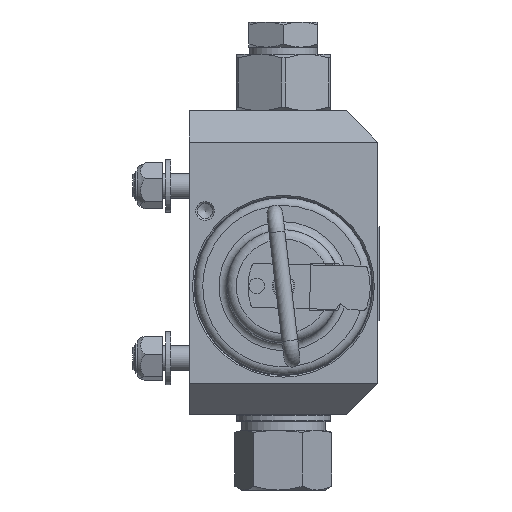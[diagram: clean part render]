
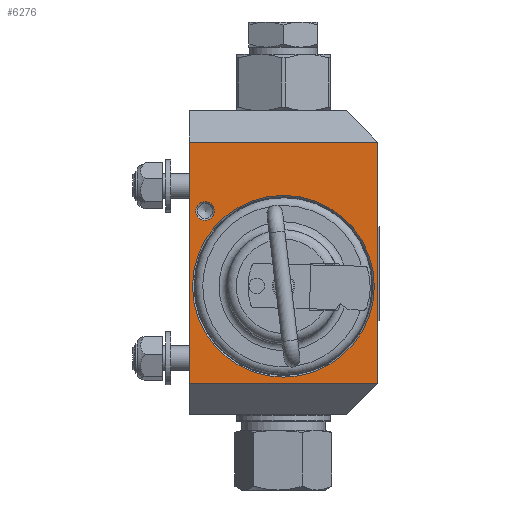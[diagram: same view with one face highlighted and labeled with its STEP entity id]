
A CAD part, left-side view. The second image highlights one B-rep face of the part: STEP entity #6276.
In plain terms, the highlighted planar face has unit normal (-1, 0, 0).
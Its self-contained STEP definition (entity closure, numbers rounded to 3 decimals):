
#551=LINE('',#14315,#791);
#565=LINE('',#14343,#805);
#566=LINE('',#14411,#806);
#572=LINE('',#14421,#812);
#791=VECTOR('',#9207,1000.);
#805=VECTOR('',#9229,1000.);
#806=VECTOR('',#9318,1000.);
#812=VECTOR('',#9328,1000.);
#2025=ORIENTED_EDGE('',*,*,#3154,.F.);
#2026=ORIENTED_EDGE('',*,*,#3108,.T.);
#2027=ORIENTED_EDGE('',*,*,#3148,.T.);
#2028=ORIENTED_EDGE('',*,*,#3122,.T.);
#2029=ORIENTED_EDGE('',*,*,#3137,.T.);
#2030=ORIENTED_EDGE('',*,*,#3054,.T.);
#3054=EDGE_CURVE('',#3731,#3731,#4186,.T.);
#3108=EDGE_CURVE('',#3772,#3770,#551,.T.);
#3122=EDGE_CURVE('',#3780,#3778,#565,.T.);
#3137=EDGE_CURVE('',#3795,#3795,#4206,.T.);
#3148=EDGE_CURVE('',#3770,#3780,#566,.T.);
#3154=EDGE_CURVE('',#3772,#3778,#572,.T.);
#3731=VERTEX_POINT('',#12752);
#3770=VERTEX_POINT('',#14313);
#3772=VERTEX_POINT('',#14316);
#3778=VERTEX_POINT('',#14334);
#3780=VERTEX_POINT('',#14340);
#3795=VERTEX_POINT('',#14384);
#4186=CIRCLE('',#7869,2.959);
#4206=CIRCLE('',#7918,29.);
#4784=EDGE_LOOP('',(#2025,#2026,#2027,#2028));
#4785=EDGE_LOOP('',(#2029));
#4786=EDGE_LOOP('',(#2030));
#5510=FACE_BOUND('',#4784,.T.);
#5511=FACE_BOUND('',#4785,.T.);
#5512=FACE_BOUND('',#4786,.T.);
#5904=PLANE('',#7937);
#6276=ADVANCED_FACE('',(#5510,#5511,#5512),#5904,.F.);
#7869=AXIS2_PLACEMENT_3D('',#12751,#9152,#9153);
#7918=AXIS2_PLACEMENT_3D('',#14383,#9282,#9283);
#7937=AXIS2_PLACEMENT_3D('',#14420,#9326,#9327);
#9152=DIRECTION('',(1.,0.,0.));
#9153=DIRECTION('',(0.,0.,-1.));
#9207=DIRECTION('',(0.,1.,0.));
#9229=DIRECTION('',(0.,-1.,0.));
#9282=DIRECTION('',(1.,0.,0.));
#9283=DIRECTION('',(0.,0.,-1.));
#9318=DIRECTION('',(0.,0.,-1.));
#9326=DIRECTION('',(1.,0.,0.));
#9327=DIRECTION('',(0.,1.,0.));
#9328=DIRECTION('',(0.,0.,-1.));
#12751=CARTESIAN_POINT('',(42.826,55.,88.));
#12752=CARTESIAN_POINT('',(42.826,55.,85.042));
#14313=CARTESIAN_POINT('',(42.826,60.,110.));
#14315=CARTESIAN_POINT('',(42.826,60.,110.));
#14316=CARTESIAN_POINT('',(42.826,0.,110.));
#14334=CARTESIAN_POINT('',(42.826,0.,33.));
#14340=CARTESIAN_POINT('',(42.826,60.,33.));
#14343=CARTESIAN_POINT('',(42.826,60.,33.));
#14383=CARTESIAN_POINT('',(42.826,30.,64.));
#14384=CARTESIAN_POINT('',(42.826,30.,35.));
#14411=CARTESIAN_POINT('',(42.826,60.,120.));
#14420=CARTESIAN_POINT('',(42.826,60.,120.));
#14421=CARTESIAN_POINT('',(42.826,0.,120.));
